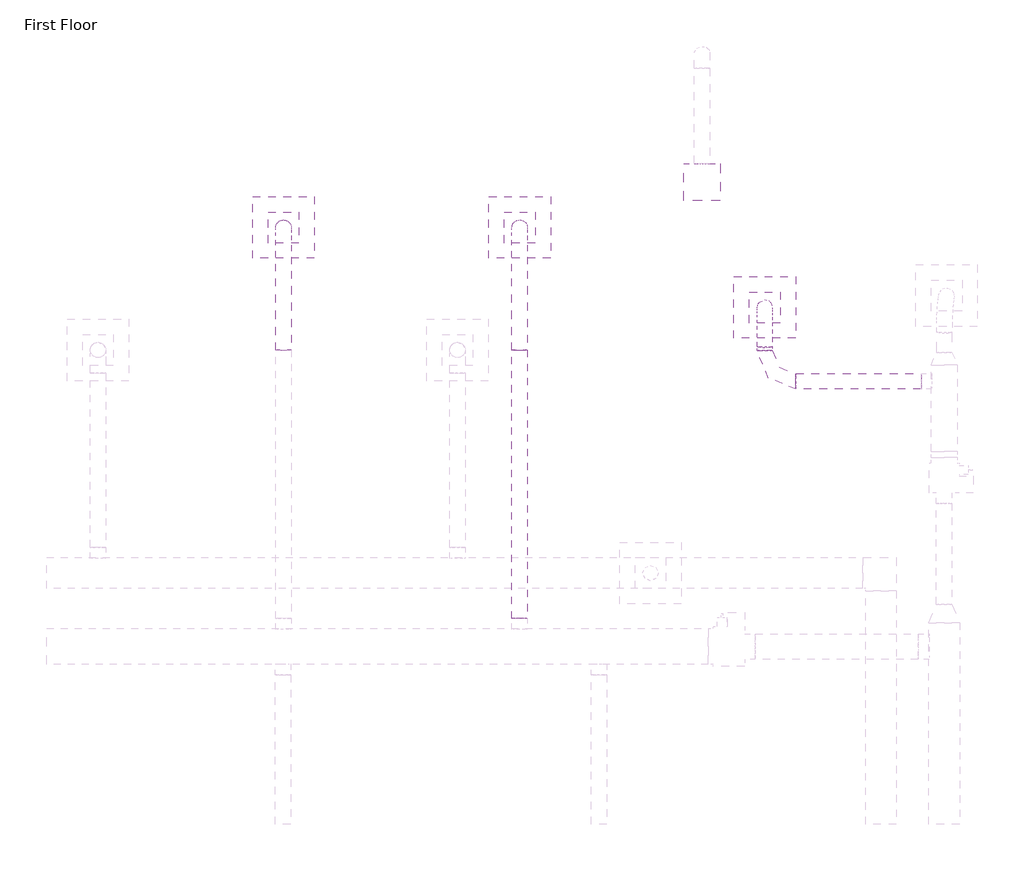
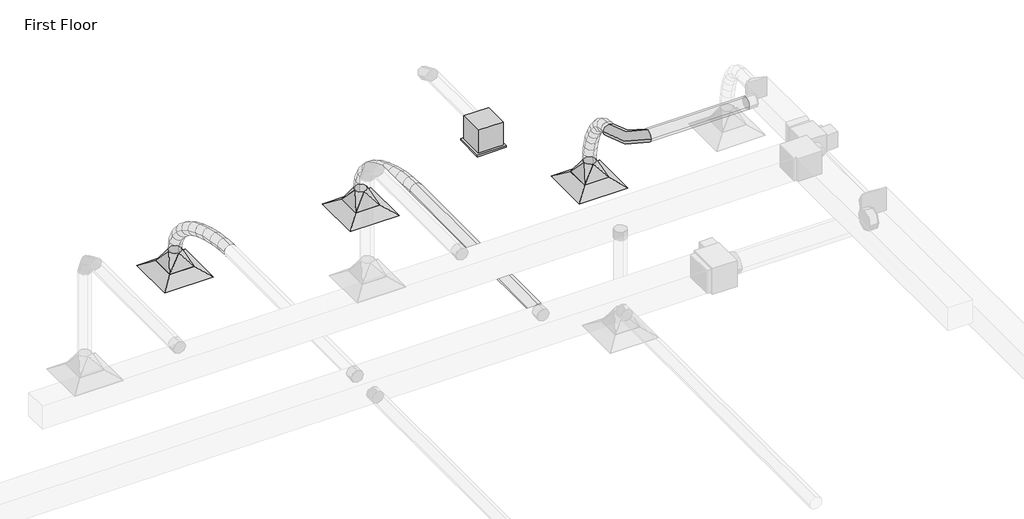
# One storey, part 44 of 61: 6 duct segments, 4 duct fittings, 3 air terminals, 1 proxy.
"""IFC4 building model written with IfcOpenShell, lengths in millimetres."""

from ifc_helpers import new_model, si_unit, point, frame, frame_2d, origin, place, context, project, spatial, circle_curve, ellipse_curve, trimmed, segment, composite_curve, outline, extrude, transform, mapped, element, save
from ifc_brep_helpers import plane_surface, cylinder_surface, advanced_brep
from components import m_exhaust_grill_er_600_x_600_face_300_x_300_connection_ff221211, proxy_47_84_lps_344db5a5, m_rectangular_to_round_transition_angle_45_degree_8f201c83, m_round_elbow_2_d_c40af4c7

model = new_model("IFC4")

# Units and contexts
model_context = context("Model", 3, world=origin())
ifc_project = project(units=[si_unit("LENGTHUNIT", "METRE", prefix="MILLI")], contexts=[model_context])

# Site, building, storey
site = spatial("IfcSite", under=ifc_project)
building = spatial("IfcBuilding", under=site)
storey = spatial("IfcBuildingStorey", under=building, Name="First Floor", Elevation=0.0)

# Air terminals
placement = place(None, origin())
m_exhaust_grill_er_600_x_600_face_300_x_300_connection_shape = m_exhaust_grill_er_600_x_600_face_300_x_300_connection_ff221211(model_context)
element("IfcAirTerminal", 1, ObjectType="M_Supply Diffuser : SD-600 x 600 Face 300 x 300 Connection", at=placement, inside=storey, context=model_context, shape_type="MappedRepresentation", body=[
    mapped(m_exhaust_grill_er_600_x_600_face_300_x_300_connection_shape, transform((-45931.4576084, 55051.7869292, 2680.0), x_axis=(1.0, 0.0, 0.0), y_axis=(0.0, 1.0, 0.0), z_axis=(0.0, 0.0, 1.0))),
])
element("IfcAirTerminal", 2, ObjectType="M_Supply Diffuser : SD-600 x 600 Face 300 x 300 Connection", at=placement, inside=storey, context=model_context, shape_type="MappedRepresentation", body=[
    mapped(m_exhaust_grill_er_600_x_600_face_300_x_300_connection_shape, transform((-43638.1837386, 55051.7869292, 2680.0), x_axis=(1.0, 0.0, 0.0), y_axis=(0.0, 1.0, 0.0), z_axis=(0.0, 0.0, 1.0))),
])
element("IfcAirTerminal", 3, ObjectType="M_Supply Diffuser : SD-600 x 600 Face 300 x 300 Connection", at=placement, inside=storey, context=model_context, shape_type="MappedRepresentation", body=[
    mapped(m_exhaust_grill_er_600_x_600_face_300_x_300_connection_shape, transform((-41259.1077231, 54274.9463028, 2680.0), x_axis=(1.0, 0.0, 0.0), y_axis=(0.0, 1.0, 0.0), z_axis=(0.0, 0.0, 1.0))),
])

# Proxy
proxy_47_84_lps_shape = proxy_47_84_lps_344db5a5(model_context)
element("IfcBuildingElementProxy", 4, Name="M_Exhaust Unit with Cabinet - Round Connection - Ceiling Mounted : 47-84 LPS", ObjectType="M_Exhaust Unit with Cabinet - Round Connection - Ceiling Mounted : 47-84 LPS", at=placement, inside=storey, context=model_context, shape_type="MappedRepresentation", body=[
    mapped(proxy_47_84_lps_shape, transform((-41867.0563016, 55492.1436321, 2680.0), x_axis=(-1.0, 0.0, 0.0), y_axis=(0.0, -1.0, 0.0), z_axis=(0.0, 0.0, 1.0))),
])

# Duct fittings
m_rectangular_to_round_transition_angle_45_degree_shape = m_rectangular_to_round_transition_angle_45_degree_8f201c83(model_context)
element("IfcDuctFitting", 5, ObjectType="M_Rectangular to Round Transition - Angle : 45 Degree", at=placement, inside=storey, context=model_context, shape_type="MappedRepresentation", body=[
    mapped(m_rectangular_to_round_transition_angle_45_degree_shape, transform((-45931.4576084, 55051.7869292, 2781.6), x_axis=(0.0, 0.0, 1.0), y_axis=(1.0, 0.0, 0.0), z_axis=(0.0, 1.0, 0.0))),
])
element("IfcDuctFitting", 6, ObjectType="M_Rectangular to Round Transition - Angle : 45 Degree", at=placement, inside=storey, context=model_context, shape_type="MappedRepresentation", body=[
    mapped(m_rectangular_to_round_transition_angle_45_degree_shape, transform((-43638.1837386, 55051.7869292, 2781.6), x_axis=(0.0, 0.0, 1.0), y_axis=(1.0, 0.0, 0.0), z_axis=(0.0, 1.0, 0.0))),
])
element("IfcDuctFitting", 7, ObjectType="M_Rectangular to Round Transition - Angle : 45 Degree", at=placement, inside=storey, context=model_context, shape_type="MappedRepresentation", body=[
    mapped(m_rectangular_to_round_transition_angle_45_degree_shape, transform((-41259.1077231, 54274.9463028, 2781.6), x_axis=(0.0, 0.0, 1.0), y_axis=(1.0, 0.0, 0.0), z_axis=(0.0, 1.0, 0.0))),
])
m_round_elbow_2_d_shape = m_round_elbow_2_d_c40af4c7(model_context)
element("IfcDuctFitting", 8, ObjectType="M_Round Elbow : 2 D", at=placement, inside=storey, context=model_context, shape_type="MappedRepresentation", body=[
    mapped(m_round_elbow_2_d_shape, transform((-41259.1077231, 53555.7638627, 3619.1), x_axis=(0.0, -1.0, 0.0), y_axis=(1.0, 0.0, 0.0), z_axis=(0.0, 0.0, 1.0))),
])

# Duct segments
element("IfcDuctSegment", 9, ObjectType="Flex - Round", at=placement, inside=storey, context=model_context, shape_type="AdvancedBrep", body=[
    advanced_brep(
    [(-46006.4576084, 53861.7582569, 3669.1), (-45931.4576084, 53857.9851706, 3594.194968), (-45856.4576084, 53861.7582569, 3669.1), (-45931.4576084, 53865.5313432, 3744.005032), (-46006.4576084, 54007.1760719, 3661.7750721), (-45931.4576084, 54000.0547403, 3587.0386965), (-45856.4576084, 54007.1760719, 3661.7750721), (-45931.4576084, 54014.2974035, 3736.5114476), (-46006.4576084, 55051.7869292, 2962.6660172), (-45931.4576084, 55125.8654381, 2974.3867045), (-45856.4576084, 55051.7869292, 2962.6660172), (-45931.4576084, 54977.7084202, 2950.9453299), (-46006.4576084, 54162.6621963, 3639.9161052), (-45931.4576084, 54149.1177474, 3566.0827215), (-45856.4576084, 54162.6621963, 3639.9161052), (-45931.4576084, 54176.2066453, 3713.7494888), (-46006.4576084, 54322.2397685, 3603.6968247), (-45931.4576084, 54302.4851842, 3531.2729539), (-45856.4576084, 54322.2397685, 3603.6968247), (-45931.4576084, 54341.9943528, 3676.1206955), (-46006.4576084, 54479.9319267, 3553.2909562), (-45931.4576084, 54453.6409268, 3482.9564328), (-45856.4576084, 54479.9319267, 3553.2909562), (-45931.4576084, 54506.2229266, 3623.6254796), (-46006.4576084, 54629.7618093, 3488.8722249), (-45931.4576084, 54596.1325707, 3421.6927465), (-45856.4576084, 54629.7618093, 3488.8722249), (-45931.4576084, 54663.3910479, 3556.0517032), (-46006.4576084, 54765.7525547, 3410.6143563), (-45931.4576084, 54723.5515223, 3348.3676423), (-45856.4576084, 54765.7525547, 3410.6143563), (-45931.4576084, 54807.953587, 3472.8610703), (-46006.4576084, 54881.927301, 3318.6910758), (-45931.4576084, 54829.7068447, 3264.3722322), (-45856.4576084, 54881.927301, 3318.6910758), (-45931.4576084, 54934.1477573, 3373.0099195), (-46006.4576084, 54972.3091866, 3213.2761089), (-45931.4576084, 54909.2323791, 3171.6193368), (-45856.4576084, 54972.3091866, 3213.2761089), (-45931.4576084, 55035.3859942, 3254.9328809), (-46006.4576084, 55030.9213499, 3094.5431809), (-45931.4576084, 54958.6240414, 3071.5647345), (-45856.4576084, 55030.9213499, 3094.5431809), (-45931.4576084, 55103.2186584, 3117.5216272)],
    [
        (0, 1, circle_curve(frame((-45931.4576084, 53861.7582569, 3669.1), z_axis=(0.0, -0.9987337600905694, 0.05030781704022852), x_axis=(-1.0, 0.0, 0.0)), 75.0)),
        (1, 2, circle_curve(frame((-45931.4576084, 53861.7582569, 3669.1), z_axis=(0.0, -0.9987337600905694, 0.05030781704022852), x_axis=(-1.0, 0.0, 0.0)), 75.0)),
        (2, 3, circle_curve(frame((-45931.4576084, 53861.7582569, 3669.1), z_axis=(0.0, -0.9987337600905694, 0.05030781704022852), x_axis=(-1.0, 0.0, 0.0)), 75.0)),
        (3, 0, circle_curve(frame((-45931.4576084, 53861.7582569, 3669.1), z_axis=(0.0, -0.9987337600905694, 0.05030781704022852), x_axis=(-1.0, 0.0, 0.0)), 75.0)),
        (0, 4),
        (4, 5, ellipse_curve(frame((-45931.4576084, 54007.1760719, 3661.7750721), z_axis=(0.0, -0.9954909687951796, 0.09485637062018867), x_axis=(0.0, -0.0948563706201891, -0.9954909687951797)), 75.0748906, 75.0)),
        (5, 1),
        (5, 6, ellipse_curve(frame((-45931.4576084, 54007.1760719, 3661.7750721), z_axis=(0.0, -0.9954909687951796, 0.09485637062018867), x_axis=(0.0, -0.0948563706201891, -0.9954909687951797)), 75.0748906, 75.0)),
        (6, 2),
        (6, 7, ellipse_curve(frame((-45931.4576084, 54007.1760719, 3661.7750721), z_axis=(0.0, -0.9954909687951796, 0.09485637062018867), x_axis=(0.0, -0.0948563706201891, -0.9954909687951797)), 75.0748906, 75.0)),
        (7, 3),
        (7, 4, ellipse_curve(frame((-45931.4576084, 54007.1760719, 3661.7750721), z_axis=(0.0, -0.9954909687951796, 0.09485637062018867), x_axis=(0.0, -0.0948563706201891, -0.9954909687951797)), 75.0748906, 75.0)),
        (8, 9, circle_curve(frame((-45931.4576084, 55051.7869292, 2962.6660172), z_axis=(0.0, 0.15627583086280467, -0.9877134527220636), x_axis=(-1.0, 0.0, 0.0)), 75.0)),
        (9, 10, circle_curve(frame((-45931.4576084, 55051.7869292, 2962.6660172), z_axis=(0.0, 0.15627583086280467, -0.9877134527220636), x_axis=(-1.0, 0.0, 0.0)), 75.0)),
        (10, 11, circle_curve(frame((-45931.4576084, 55051.7869292, 2962.6660172), z_axis=(0.0, 0.15627583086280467, -0.9877134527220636), x_axis=(-1.0, 0.0, 0.0)), 75.0)),
        (11, 8, circle_curve(frame((-45931.4576084, 55051.7869292, 2962.6660172), z_axis=(0.0, 0.15627583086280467, -0.9877134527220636), x_axis=(-1.0, 0.0, 0.0)), 75.0)),
        (4, 12),
        (12, 13, ellipse_curve(frame((-45931.4576084, 54162.6621963, 3639.9161052), z_axis=(0.0, -0.9835868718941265, 0.18043521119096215), x_axis=(1.29484384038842e-12, -0.18043521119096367, -0.9835868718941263)), 75.0654424, 75.0)),
        (13, 5),
        (13, 14, ellipse_curve(frame((-45931.4576084, 54162.6621963, 3639.9161052), z_axis=(0.0, -0.9835868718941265, 0.18043521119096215), x_axis=(1.29484384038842e-12, -0.18043521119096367, -0.9835868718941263)), 75.0654424, 75.0)),
        (14, 6),
        (14, 15, ellipse_curve(frame((-45931.4576084, 54162.6621963, 3639.9161052), z_axis=(0.0, -0.9835868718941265, 0.18043521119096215), x_axis=(1.29484384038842e-12, -0.18043521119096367, -0.9835868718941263)), 75.0654424, 75.0)),
        (15, 7),
        (15, 12, ellipse_curve(frame((-45931.4576084, 54162.6621963, 3639.9161052), z_axis=(0.0, -0.9835868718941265, 0.18043521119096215), x_axis=(1.29484384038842e-12, -0.18043521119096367, -0.9835868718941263)), 75.0654424, 75.0)),
        (12, 16),
        (16, 17, ellipse_curve(frame((-45931.4576084, 54322.2397685, 3603.6968247), z_axis=(0.0, -0.9647549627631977, 0.26314988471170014), x_axis=(-1.2216592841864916e-12, -0.26314988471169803, -0.9647549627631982)), 75.0697054, 75.0)),
        (17, 13),
        (17, 18, ellipse_curve(frame((-45931.4576084, 54322.2397685, 3603.6968247), z_axis=(0.0, -0.9647549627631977, 0.26314988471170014), x_axis=(-1.2216592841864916e-12, -0.26314988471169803, -0.9647549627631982)), 75.0697054, 75.0)),
        (18, 14),
        (18, 19, ellipse_curve(frame((-45931.4576084, 54322.2397685, 3603.6968247), z_axis=(0.0, -0.9647549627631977, 0.26314988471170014), x_axis=(-1.2216592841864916e-12, -0.26314988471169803, -0.9647549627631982)), 75.0697054, 75.0)),
        (19, 15),
        (19, 16, ellipse_curve(frame((-45931.4576084, 54322.2397685, 3603.6968247), z_axis=(0.0, -0.9647549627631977, 0.26314988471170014), x_axis=(-1.2216592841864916e-12, -0.26314988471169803, -0.9647549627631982)), 75.0697054, 75.0)),
        (16, 20),
        (20, 21, ellipse_curve(frame((-45931.4576084, 54479.9319267, 3553.2909562), z_axis=(0.0, -0.9366984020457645, 0.3501372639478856), x_axis=(0.0, -0.35013726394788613, -0.9366984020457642)), 75.0876944, 75.0)),
        (21, 17),
        (21, 22, ellipse_curve(frame((-45931.4576084, 54479.9319267, 3553.2909562), z_axis=(0.0, -0.9366984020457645, 0.3501372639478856), x_axis=(0.0, -0.35013726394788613, -0.9366984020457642)), 75.0876944, 75.0)),
        (22, 18),
        (22, 23, ellipse_curve(frame((-45931.4576084, 54479.9319267, 3553.2909562), z_axis=(0.0, -0.9366984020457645, 0.3501372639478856), x_axis=(0.0, -0.35013726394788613, -0.9366984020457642)), 75.0876944, 75.0)),
        (23, 19),
        (23, 20, ellipse_curve(frame((-45931.4576084, 54479.9319267, 3553.2909562), z_axis=(0.0, -0.9366984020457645, 0.3501372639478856), x_axis=(0.0, -0.35013726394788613, -0.9366984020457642)), 75.0876944, 75.0)),
        (20, 24),
        (24, 25, ellipse_curve(frame((-45931.4576084, 54629.7618093, 3488.8722249), z_axis=(0.0, -0.8942167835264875, 0.44763416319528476), x_axis=(0.0, -0.44763416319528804, -0.894216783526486)), 75.1266131, 75.0)),
        (25, 21),
        (25, 26, ellipse_curve(frame((-45931.4576084, 54629.7618093, 3488.8722249), z_axis=(0.0, -0.8942167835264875, 0.44763416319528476), x_axis=(0.0, -0.44763416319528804, -0.894216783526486)), 75.1266131, 75.0)),
        (26, 22),
        (26, 27, ellipse_curve(frame((-45931.4576084, 54629.7618093, 3488.8722249), z_axis=(0.0, -0.8942167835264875, 0.44763416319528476), x_axis=(0.0, -0.44763416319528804, -0.894216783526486)), 75.1266131, 75.0)),
        (27, 23),
        (27, 24, ellipse_curve(frame((-45931.4576084, 54629.7618093, 3488.8722249), z_axis=(0.0, -0.8942167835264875, 0.44763416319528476), x_axis=(0.0, -0.44763416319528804, -0.894216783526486)), 75.1266131, 75.0)),
        (24, 28),
        (28, 29, ellipse_curve(frame((-45931.4576084, 54765.7525547, 3410.6143563), z_axis=(0.0, -0.8277092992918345, 0.5611571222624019), x_axis=(0.0, -0.5611571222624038, -0.8277092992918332)), 75.2035939, 75.0)),
        (29, 25),
        (29, 30, ellipse_curve(frame((-45931.4576084, 54765.7525547, 3410.6143563), z_axis=(0.0, -0.8277092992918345, 0.5611571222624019), x_axis=(0.0, -0.5611571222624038, -0.8277092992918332)), 75.2035939, 75.0)),
        (30, 26),
        (30, 31, ellipse_curve(frame((-45931.4576084, 54765.7525547, 3410.6143563), z_axis=(0.0, -0.8277092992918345, 0.5611571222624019), x_axis=(0.0, -0.5611571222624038, -0.8277092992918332)), 75.2035939, 75.0)),
        (31, 27),
        (31, 28, ellipse_curve(frame((-45931.4576084, 54765.7525547, 3410.6143563), z_axis=(0.0, -0.8277092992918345, 0.5611571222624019), x_axis=(0.0, -0.5611571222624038, -0.8277092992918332)), 75.2035939, 75.0)),
        (28, 32),
        (32, 33, ellipse_curve(frame((-45931.4576084, 54881.927301, 3318.6910758), z_axis=(0.0, -0.7208940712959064, 0.6930452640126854), x_axis=(0.0, -0.693045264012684, -0.7208940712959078)), 75.3492723, 75.0)),
        (33, 29),
        (33, 34, ellipse_curve(frame((-45931.4576084, 54881.927301, 3318.6910758), z_axis=(0.0, -0.7208940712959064, 0.6930452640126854), x_axis=(0.0, -0.693045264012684, -0.7208940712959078)), 75.3492723, 75.0)),
        (34, 30),
        (34, 35, ellipse_curve(frame((-45931.4576084, 54881.927301, 3318.6910758), z_axis=(0.0, -0.7208940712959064, 0.6930452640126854), x_axis=(0.0, -0.693045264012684, -0.7208940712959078)), 75.3492723, 75.0)),
        (35, 31),
        (35, 32, ellipse_curve(frame((-45931.4576084, 54881.927301, 3318.6910758), z_axis=(0.0, -0.7208940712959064, 0.6930452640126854), x_axis=(0.0, -0.693045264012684, -0.7208940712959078)), 75.3492723, 75.0)),
        (32, 36),
        (36, 37, ellipse_curve(frame((-45931.4576084, 54972.3091866, 3213.2761089), z_axis=(0.0, -0.5510825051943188, 0.8344507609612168), x_axis=(0.0, -0.8344507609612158, -0.55108250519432)), 75.5908084, 75.0)),
        (37, 33),
        (37, 38, ellipse_curve(frame((-45931.4576084, 54972.3091866, 3213.2761089), z_axis=(0.0, -0.5510825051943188, 0.8344507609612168), x_axis=(0.0, -0.8344507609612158, -0.55108250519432)), 75.5908084, 75.0)),
        (38, 34),
        (38, 39, ellipse_curve(frame((-45931.4576084, 54972.3091866, 3213.2761089), z_axis=(0.0, -0.5510825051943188, 0.8344507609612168), x_axis=(0.0, -0.8344507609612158, -0.55108250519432)), 75.5908084, 75.0)),
        (39, 35),
        (39, 36, ellipse_curve(frame((-45931.4576084, 54972.3091866, 3213.2761089), z_axis=(0.0, -0.5510825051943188, 0.8344507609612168), x_axis=(0.0, -0.8344507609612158, -0.55108250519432)), 75.5908084, 75.0)),
        (36, 40),
        (40, 41, ellipse_curve(frame((-45931.4576084, 55030.9213499, 3094.5431809), z_axis=(0.0, -0.30290148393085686, 0.9530218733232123), x_axis=(0.0, -0.953021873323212, -0.3029014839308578)), 75.8611219, 75.0)),
        (41, 37),
        (41, 42, ellipse_curve(frame((-45931.4576084, 55030.9213499, 3094.5431809), z_axis=(0.0, -0.30290148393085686, 0.9530218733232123), x_axis=(0.0, -0.953021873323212, -0.3029014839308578)), 75.8611219, 75.0)),
        (42, 38),
        (42, 43, ellipse_curve(frame((-45931.4576084, 55030.9213499, 3094.5431809), z_axis=(0.0, -0.30290148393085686, 0.9530218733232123), x_axis=(0.0, -0.953021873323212, -0.3029014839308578)), 75.8611219, 75.0)),
        (43, 39),
        (43, 40, ellipse_curve(frame((-45931.4576084, 55030.9213499, 3094.5431809), z_axis=(0.0, -0.30290148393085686, 0.9530218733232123), x_axis=(0.0, -0.953021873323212, -0.3029014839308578)), 75.8611219, 75.0)),
        (40, 8),
        (11, 41),
        (10, 42),
        (9, 43),
    ],
    [
        plane_surface(frame((-45931.4576084, 53865.5313432, 3744.005032), z_axis=(0.0, -0.9987337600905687, 0.050307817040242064), x_axis=(1.0, 0.0, 0.0))),
        cylinder_surface(frame((-45931.4576084, 53861.7582569, 3669.1), z_axis=(0.0, -0.9987337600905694, 0.05030781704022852), x_axis=(-1.0, 0.0, 0.0)), 75.0),
        plane_surface(frame((-45931.4576084, 55125.8654381, 2974.3867045), z_axis=(0.0, 0.15627583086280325, -0.9877134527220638), x_axis=(1.0, 0.0, 0.0))),
        cylinder_surface(frame((-45931.4576084, 54007.1760719, 3661.7750721), z_axis=(0.0, -0.9902620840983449, 0.1392156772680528), x_axis=(-1.0, 0.0, 0.0)), 75.0),
        cylinder_surface(frame((-45931.4576084, 54162.6621963, 3639.9161052), z_axis=(0.0, -0.9751966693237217, 0.2213401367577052), x_axis=(-1.0, 0.0, 0.0)), 75.0),
        cylinder_surface(frame((-45931.4576084, 54322.2397685, 3603.6968247), z_axis=(0.0, -0.952521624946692, 0.3044709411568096), x_axis=(-1.0, 0.0, 0.0)), 75.0),
        cylinder_surface(frame((-45931.4576084, 54479.9319267, 3553.2909562), z_axis=(0.0, -0.918687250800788, 0.3949857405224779), x_axis=(-1.0, 0.0, 0.0)), 75.0),
        cylinder_surface(frame((-45931.4576084, 54629.7618093, 3488.8722249), z_axis=(0.0, -0.8667322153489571, 0.4987737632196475), x_axis=(-1.0, 0.0, 0.0)), 75.0),
        cylinder_surface(frame((-45931.4576084, 54765.7525547, 3410.6143563), z_axis=(0.0, -0.7842047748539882, 0.6205021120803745), x_axis=(-1.0, 0.0, 0.0)), 75.0),
        cylinder_surface(frame((-45931.4576084, 54881.927301, 3318.6910758), z_axis=(0.0, -0.6509001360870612, 0.7591633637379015), x_axis=(-1.0, 0.0, 0.0)), 75.0),
        cylinder_surface(frame((-45931.4576084, 54972.3091866, 3213.2761089), z_axis=(0.0, -0.4426504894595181, 0.8966942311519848), x_axis=(-1.0, 0.0, 0.0)), 75.0),
        cylinder_surface(frame((-45931.4576084, 55030.9213499, 3094.5431809), z_axis=(0.0, -0.15627583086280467, 0.9877134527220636), x_axis=(-1.0, 0.0, 0.0)), 75.0),
    ],
    [
        (0, [[1, 2, 3, 4]]),
        (1, [[-1, 5, 6, 7]]),
        (1, [[-2, -7, 8, 9]]),
        (1, [[-3, -9, 10, 11]]),
        (1, [[-4, -11, 12, -5]]),
        (2, [[13, 14, 15, 16]]),
        (3, [[-6, 17, 18, 19]]),
        (3, [[-8, -19, 20, 21]]),
        (3, [[-10, -21, 22, 23]]),
        (3, [[-12, -23, 24, -17]]),
        (4, [[-18, 25, 26, 27]]),
        (4, [[-20, -27, 28, 29]]),
        (4, [[-22, -29, 30, 31]]),
        (4, [[-24, -31, 32, -25]]),
        (5, [[-26, 33, 34, 35]]),
        (5, [[-28, -35, 36, 37]]),
        (5, [[-30, -37, 38, 39]]),
        (5, [[-32, -39, 40, -33]]),
        (6, [[-34, 41, 42, 43]]),
        (6, [[-36, -43, 44, 45]]),
        (6, [[-38, -45, 46, 47]]),
        (6, [[-40, -47, 48, -41]]),
        (7, [[-42, 49, 50, 51]]),
        (7, [[-44, -51, 52, 53]]),
        (7, [[-46, -53, 54, 55]]),
        (7, [[-48, -55, 56, -49]]),
        (8, [[-50, 57, 58, 59]]),
        (8, [[-52, -59, 60, 61]]),
        (8, [[-54, -61, 62, 63]]),
        (8, [[-56, -63, 64, -57]]),
        (9, [[-58, 65, 66, 67]]),
        (9, [[-60, -67, 68, 69]]),
        (9, [[-62, -69, 70, 71]]),
        (9, [[-64, -71, 72, -65]]),
        (10, [[-66, 73, 74, 75]]),
        (10, [[-68, -75, 76, 77]]),
        (10, [[-70, -77, 78, 79]]),
        (10, [[-72, -79, 80, -73]]),
        (11, [[-74, 81, -16, 82]]),
        (11, [[-76, -82, -15, 83]]),
        (11, [[-78, -83, -14, 84]]),
        (11, [[-80, -84, -13, -81]]),
    ],
),
])
element("IfcDuctSegment", 10, ObjectType="Flex - Round", at=placement, inside=storey, context=model_context, shape_type="AdvancedBrep", body=[
    advanced_brep(
    [(-43713.1837386, 53861.7582569, 3669.1), (-43638.1837386, 53857.9851706, 3594.194968), (-43563.1837386, 53861.7582569, 3669.1), (-43638.1837386, 53865.5313432, 3744.005032), (-43713.1837386, 54007.1760719, 3661.7750721), (-43638.1837386, 54000.0547403, 3587.0386965), (-43563.1837386, 54007.1760719, 3661.7750721), (-43638.1837386, 54014.2974035, 3736.5114476), (-43713.1837386, 55051.7869292, 2962.6660172), (-43638.1837386, 55125.8654381, 2974.3867045), (-43563.1837386, 55051.7869292, 2962.6660172), (-43638.1837386, 54977.7084202, 2950.9453299), (-43713.1837386, 54162.6621963, 3639.9161052), (-43638.1837386, 54149.1177474, 3566.0827215), (-43563.1837386, 54162.6621963, 3639.9161052), (-43638.1837386, 54176.2066453, 3713.7494888), (-43713.1837386, 54322.2397685, 3603.6968247), (-43638.1837386, 54302.4851842, 3531.2729539), (-43563.1837386, 54322.2397685, 3603.6968247), (-43638.1837386, 54341.9943528, 3676.1206955), (-43713.1837386, 54479.9319267, 3553.2909562), (-43638.1837386, 54453.6409268, 3482.9564328), (-43563.1837386, 54479.9319267, 3553.2909562), (-43638.1837386, 54506.2229266, 3623.6254796), (-43713.1837386, 54629.7618093, 3488.8722249), (-43638.1837386, 54596.1325707, 3421.6927465), (-43563.1837386, 54629.7618093, 3488.8722249), (-43638.1837386, 54663.3910479, 3556.0517032), (-43713.1837386, 54765.7525547, 3410.6143563), (-43638.1837386, 54723.5515223, 3348.3676423), (-43563.1837386, 54765.7525547, 3410.6143563), (-43638.1837386, 54807.953587, 3472.8610703), (-43713.1837386, 54881.927301, 3318.6910758), (-43638.1837386, 54829.7068447, 3264.3722322), (-43563.1837386, 54881.927301, 3318.6910758), (-43638.1837386, 54934.1477573, 3373.0099195), (-43713.1837386, 54972.3091866, 3213.2761089), (-43638.1837386, 54909.2323791, 3171.6193368), (-43563.1837386, 54972.3091866, 3213.2761089), (-43638.1837386, 55035.3859942, 3254.9328809), (-43713.1837386, 55030.9213499, 3094.5431809), (-43638.1837386, 54958.6240414, 3071.5647345), (-43563.1837386, 55030.9213499, 3094.5431809), (-43638.1837386, 55103.2186584, 3117.5216272)],
    [
        (0, 1, circle_curve(frame((-43638.1837386, 53861.7582569, 3669.1), z_axis=(0.0, -0.9987337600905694, 0.05030781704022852), x_axis=(-1.0, 0.0, 0.0)), 75.0)),
        (1, 2, circle_curve(frame((-43638.1837386, 53861.7582569, 3669.1), z_axis=(0.0, -0.9987337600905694, 0.05030781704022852), x_axis=(-1.0, 0.0, 0.0)), 75.0)),
        (2, 3, circle_curve(frame((-43638.1837386, 53861.7582569, 3669.1), z_axis=(0.0, -0.9987337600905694, 0.05030781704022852), x_axis=(-1.0, 0.0, 0.0)), 75.0)),
        (3, 0, circle_curve(frame((-43638.1837386, 53861.7582569, 3669.1), z_axis=(0.0, -0.9987337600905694, 0.05030781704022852), x_axis=(-1.0, 0.0, 0.0)), 75.0)),
        (0, 4),
        (4, 5, ellipse_curve(frame((-43638.1837386, 54007.1760719, 3661.7750721), z_axis=(0.0, -0.9954909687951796, 0.09485637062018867), x_axis=(0.0, -0.0948563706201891, -0.9954909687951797)), 75.0748906, 75.0)),
        (5, 1),
        (5, 6, ellipse_curve(frame((-43638.1837386, 54007.1760719, 3661.7750721), z_axis=(0.0, -0.9954909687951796, 0.09485637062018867), x_axis=(0.0, -0.0948563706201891, -0.9954909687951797)), 75.0748906, 75.0)),
        (6, 2),
        (6, 7, ellipse_curve(frame((-43638.1837386, 54007.1760719, 3661.7750721), z_axis=(0.0, -0.9954909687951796, 0.09485637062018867), x_axis=(0.0, -0.0948563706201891, -0.9954909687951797)), 75.0748906, 75.0)),
        (7, 3),
        (7, 4, ellipse_curve(frame((-43638.1837386, 54007.1760719, 3661.7750721), z_axis=(0.0, -0.9954909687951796, 0.09485637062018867), x_axis=(0.0, -0.0948563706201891, -0.9954909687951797)), 75.0748906, 75.0)),
        (8, 9, circle_curve(frame((-43638.1837386, 55051.7869292, 2962.6660172), z_axis=(0.0, 0.15627583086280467, -0.9877134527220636), x_axis=(-1.0, 0.0, 0.0)), 75.0)),
        (9, 10, circle_curve(frame((-43638.1837386, 55051.7869292, 2962.6660172), z_axis=(0.0, 0.15627583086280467, -0.9877134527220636), x_axis=(-1.0, 0.0, 0.0)), 75.0)),
        (10, 11, circle_curve(frame((-43638.1837386, 55051.7869292, 2962.6660172), z_axis=(0.0, 0.15627583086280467, -0.9877134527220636), x_axis=(-1.0, 0.0, 0.0)), 75.0)),
        (11, 8, circle_curve(frame((-43638.1837386, 55051.7869292, 2962.6660172), z_axis=(0.0, 0.15627583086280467, -0.9877134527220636), x_axis=(-1.0, 0.0, 0.0)), 75.0)),
        (4, 12),
        (12, 13, ellipse_curve(frame((-43638.1837386, 54162.6621963, 3639.9161052), z_axis=(0.0, -0.9835868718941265, 0.18043521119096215), x_axis=(0.0, -0.18043521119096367, -0.9835868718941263)), 75.0654424, 75.0)),
        (13, 5),
        (13, 14, ellipse_curve(frame((-43638.1837386, 54162.6621963, 3639.9161052), z_axis=(0.0, -0.9835868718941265, 0.18043521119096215), x_axis=(0.0, -0.18043521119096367, -0.9835868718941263)), 75.0654424, 75.0)),
        (14, 6),
        (14, 15, ellipse_curve(frame((-43638.1837386, 54162.6621963, 3639.9161052), z_axis=(0.0, -0.9835868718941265, 0.18043521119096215), x_axis=(0.0, -0.18043521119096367, -0.9835868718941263)), 75.0654424, 75.0)),
        (15, 7),
        (15, 12, ellipse_curve(frame((-43638.1837386, 54162.6621963, 3639.9161052), z_axis=(0.0, -0.9835868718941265, 0.18043521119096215), x_axis=(0.0, -0.18043521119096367, -0.9835868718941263)), 75.0654424, 75.0)),
        (12, 16),
        (16, 17, ellipse_curve(frame((-43638.1837386, 54322.2397685, 3603.6968247), z_axis=(0.0, -0.9647549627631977, 0.26314988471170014), x_axis=(0.0, -0.26314988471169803, -0.9647549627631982)), 75.0697054, 75.0)),
        (17, 13),
        (17, 18, ellipse_curve(frame((-43638.1837386, 54322.2397685, 3603.6968247), z_axis=(0.0, -0.9647549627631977, 0.26314988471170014), x_axis=(0.0, -0.26314988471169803, -0.9647549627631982)), 75.0697054, 75.0)),
        (18, 14),
        (18, 19, ellipse_curve(frame((-43638.1837386, 54322.2397685, 3603.6968247), z_axis=(0.0, -0.9647549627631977, 0.26314988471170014), x_axis=(0.0, -0.26314988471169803, -0.9647549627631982)), 75.0697054, 75.0)),
        (19, 15),
        (19, 16, ellipse_curve(frame((-43638.1837386, 54322.2397685, 3603.6968247), z_axis=(0.0, -0.9647549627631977, 0.26314988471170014), x_axis=(0.0, -0.26314988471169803, -0.9647549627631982)), 75.0697054, 75.0)),
        (16, 20),
        (20, 21, ellipse_curve(frame((-43638.1837386, 54479.9319267, 3553.2909562), z_axis=(0.0, -0.9366984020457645, 0.3501372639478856), x_axis=(0.0, -0.35013726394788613, -0.9366984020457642)), 75.0876944, 75.0)),
        (21, 17),
        (21, 22, ellipse_curve(frame((-43638.1837386, 54479.9319267, 3553.2909562), z_axis=(0.0, -0.9366984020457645, 0.3501372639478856), x_axis=(0.0, -0.35013726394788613, -0.9366984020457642)), 75.0876944, 75.0)),
        (22, 18),
        (22, 23, ellipse_curve(frame((-43638.1837386, 54479.9319267, 3553.2909562), z_axis=(0.0, -0.9366984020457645, 0.3501372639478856), x_axis=(0.0, -0.35013726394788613, -0.9366984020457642)), 75.0876944, 75.0)),
        (23, 19),
        (23, 20, ellipse_curve(frame((-43638.1837386, 54479.9319267, 3553.2909562), z_axis=(0.0, -0.9366984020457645, 0.3501372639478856), x_axis=(0.0, -0.35013726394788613, -0.9366984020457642)), 75.0876944, 75.0)),
        (20, 24),
        (24, 25, ellipse_curve(frame((-43638.1837386, 54629.7618093, 3488.8722249), z_axis=(0.0, -0.8942167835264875, 0.44763416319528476), x_axis=(0.0, -0.44763416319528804, -0.894216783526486)), 75.1266131, 75.0)),
        (25, 21),
        (25, 26, ellipse_curve(frame((-43638.1837386, 54629.7618093, 3488.8722249), z_axis=(0.0, -0.8942167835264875, 0.44763416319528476), x_axis=(0.0, -0.44763416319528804, -0.894216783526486)), 75.1266131, 75.0)),
        (26, 22),
        (26, 27, ellipse_curve(frame((-43638.1837386, 54629.7618093, 3488.8722249), z_axis=(0.0, -0.8942167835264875, 0.44763416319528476), x_axis=(0.0, -0.44763416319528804, -0.894216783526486)), 75.1266131, 75.0)),
        (27, 23),
        (27, 24, ellipse_curve(frame((-43638.1837386, 54629.7618093, 3488.8722249), z_axis=(0.0, -0.8942167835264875, 0.44763416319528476), x_axis=(0.0, -0.44763416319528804, -0.894216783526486)), 75.1266131, 75.0)),
        (24, 28),
        (28, 29, ellipse_curve(frame((-43638.1837386, 54765.7525547, 3410.6143563), z_axis=(0.0, -0.8277092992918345, 0.5611571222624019), x_axis=(0.0, -0.5611571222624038, -0.8277092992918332)), 75.2035939, 75.0)),
        (29, 25),
        (29, 30, ellipse_curve(frame((-43638.1837386, 54765.7525547, 3410.6143563), z_axis=(0.0, -0.8277092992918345, 0.5611571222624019), x_axis=(0.0, -0.5611571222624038, -0.8277092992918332)), 75.2035939, 75.0)),
        (30, 26),
        (30, 31, ellipse_curve(frame((-43638.1837386, 54765.7525547, 3410.6143563), z_axis=(0.0, -0.8277092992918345, 0.5611571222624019), x_axis=(0.0, -0.5611571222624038, -0.8277092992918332)), 75.2035939, 75.0)),
        (31, 27),
        (31, 28, ellipse_curve(frame((-43638.1837386, 54765.7525547, 3410.6143563), z_axis=(0.0, -0.8277092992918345, 0.5611571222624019), x_axis=(0.0, -0.5611571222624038, -0.8277092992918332)), 75.2035939, 75.0)),
        (28, 32),
        (32, 33, ellipse_curve(frame((-43638.1837386, 54881.927301, 3318.6910758), z_axis=(0.0, -0.7208940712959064, 0.6930452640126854), x_axis=(0.0, -0.693045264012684, -0.7208940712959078)), 75.3492723, 75.0)),
        (33, 29),
        (33, 34, ellipse_curve(frame((-43638.1837386, 54881.927301, 3318.6910758), z_axis=(0.0, -0.7208940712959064, 0.6930452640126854), x_axis=(0.0, -0.693045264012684, -0.7208940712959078)), 75.3492723, 75.0)),
        (34, 30),
        (34, 35, ellipse_curve(frame((-43638.1837386, 54881.927301, 3318.6910758), z_axis=(0.0, -0.7208940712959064, 0.6930452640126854), x_axis=(0.0, -0.693045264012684, -0.7208940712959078)), 75.3492723, 75.0)),
        (35, 31),
        (35, 32, ellipse_curve(frame((-43638.1837386, 54881.927301, 3318.6910758), z_axis=(0.0, -0.7208940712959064, 0.6930452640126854), x_axis=(0.0, -0.693045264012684, -0.7208940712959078)), 75.3492723, 75.0)),
        (32, 36),
        (36, 37, ellipse_curve(frame((-43638.1837386, 54972.3091866, 3213.2761089), z_axis=(0.0, -0.5510825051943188, 0.8344507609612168), x_axis=(0.0, -0.8344507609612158, -0.55108250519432)), 75.5908084, 75.0)),
        (37, 33),
        (37, 38, ellipse_curve(frame((-43638.1837386, 54972.3091866, 3213.2761089), z_axis=(0.0, -0.5510825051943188, 0.8344507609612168), x_axis=(0.0, -0.8344507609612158, -0.55108250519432)), 75.5908084, 75.0)),
        (38, 34),
        (38, 39, ellipse_curve(frame((-43638.1837386, 54972.3091866, 3213.2761089), z_axis=(0.0, -0.5510825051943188, 0.8344507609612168), x_axis=(0.0, -0.8344507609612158, -0.55108250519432)), 75.5908084, 75.0)),
        (39, 35),
        (39, 36, ellipse_curve(frame((-43638.1837386, 54972.3091866, 3213.2761089), z_axis=(0.0, -0.5510825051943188, 0.8344507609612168), x_axis=(0.0, -0.8344507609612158, -0.55108250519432)), 75.5908084, 75.0)),
        (36, 40),
        (40, 41, ellipse_curve(frame((-43638.1837386, 55030.9213499, 3094.5431809), z_axis=(0.0, -0.30290148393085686, 0.9530218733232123), x_axis=(0.0, -0.953021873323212, -0.3029014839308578)), 75.8611219, 75.0)),
        (41, 37),
        (41, 42, ellipse_curve(frame((-43638.1837386, 55030.9213499, 3094.5431809), z_axis=(0.0, -0.30290148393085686, 0.9530218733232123), x_axis=(0.0, -0.953021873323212, -0.3029014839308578)), 75.8611219, 75.0)),
        (42, 38),
        (42, 43, ellipse_curve(frame((-43638.1837386, 55030.9213499, 3094.5431809), z_axis=(0.0, -0.30290148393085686, 0.9530218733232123), x_axis=(0.0, -0.953021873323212, -0.3029014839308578)), 75.8611219, 75.0)),
        (43, 39),
        (43, 40, ellipse_curve(frame((-43638.1837386, 55030.9213499, 3094.5431809), z_axis=(0.0, -0.30290148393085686, 0.9530218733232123), x_axis=(0.0, -0.953021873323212, -0.3029014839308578)), 75.8611219, 75.0)),
        (40, 8),
        (11, 41),
        (10, 42),
        (9, 43),
    ],
    [
        plane_surface(frame((-43638.1837386, 53865.5313432, 3744.005032), z_axis=(0.0, -0.9987337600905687, 0.050307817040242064), x_axis=(1.0, 0.0, 0.0))),
        cylinder_surface(frame((-43638.1837386, 53861.7582569, 3669.1), z_axis=(0.0, -0.9987337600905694, 0.05030781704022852), x_axis=(-1.0, 0.0, 0.0)), 75.0),
        plane_surface(frame((-43638.1837386, 55125.8654381, 2974.3867045), z_axis=(0.0, 0.15627583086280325, -0.9877134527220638), x_axis=(1.0, 0.0, 0.0))),
        cylinder_surface(frame((-43638.1837386, 54007.1760719, 3661.7750721), z_axis=(0.0, -0.9902620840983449, 0.1392156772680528), x_axis=(-1.0, 0.0, 0.0)), 75.0),
        cylinder_surface(frame((-43638.1837386, 54162.6621963, 3639.9161052), z_axis=(0.0, -0.9751966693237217, 0.2213401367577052), x_axis=(-1.0, 0.0, 0.0)), 75.0),
        cylinder_surface(frame((-43638.1837386, 54322.2397685, 3603.6968247), z_axis=(0.0, -0.952521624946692, 0.3044709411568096), x_axis=(-1.0, 0.0, 0.0)), 75.0),
        cylinder_surface(frame((-43638.1837386, 54479.9319267, 3553.2909562), z_axis=(0.0, -0.918687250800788, 0.3949857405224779), x_axis=(-1.0, 0.0, 0.0)), 75.0),
        cylinder_surface(frame((-43638.1837386, 54629.7618093, 3488.8722249), z_axis=(0.0, -0.8667322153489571, 0.4987737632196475), x_axis=(-1.0, 0.0, 0.0)), 75.0),
        cylinder_surface(frame((-43638.1837386, 54765.7525547, 3410.6143563), z_axis=(0.0, -0.7842047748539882, 0.6205021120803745), x_axis=(-1.0, 0.0, 0.0)), 75.0),
        cylinder_surface(frame((-43638.1837386, 54881.927301, 3318.6910758), z_axis=(0.0, -0.6509001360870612, 0.7591633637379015), x_axis=(-1.0, 0.0, 0.0)), 75.0),
        cylinder_surface(frame((-43638.1837386, 54972.3091866, 3213.2761089), z_axis=(0.0, -0.4426504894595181, 0.8966942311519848), x_axis=(-1.0, 0.0, 0.0)), 75.0),
        cylinder_surface(frame((-43638.1837386, 55030.9213499, 3094.5431809), z_axis=(0.0, -0.15627583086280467, 0.9877134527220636), x_axis=(-1.0, 0.0, 0.0)), 75.0),
    ],
    [
        (0, [[1, 2, 3, 4]]),
        (1, [[-1, 5, 6, 7]]),
        (1, [[-2, -7, 8, 9]]),
        (1, [[-3, -9, 10, 11]]),
        (1, [[-4, -11, 12, -5]]),
        (2, [[13, 14, 15, 16]]),
        (3, [[-6, 17, 18, 19]]),
        (3, [[-8, -19, 20, 21]]),
        (3, [[-10, -21, 22, 23]]),
        (3, [[-12, -23, 24, -17]]),
        (4, [[-18, 25, 26, 27]]),
        (4, [[-20, -27, 28, 29]]),
        (4, [[-22, -29, 30, 31]]),
        (4, [[-24, -31, 32, -25]]),
        (5, [[-26, 33, 34, 35]]),
        (5, [[-28, -35, 36, 37]]),
        (5, [[-30, -37, 38, 39]]),
        (5, [[-32, -39, 40, -33]]),
        (6, [[-34, 41, 42, 43]]),
        (6, [[-36, -43, 44, 45]]),
        (6, [[-38, -45, 46, 47]]),
        (6, [[-40, -47, 48, -41]]),
        (7, [[-42, 49, 50, 51]]),
        (7, [[-44, -51, 52, 53]]),
        (7, [[-46, -53, 54, 55]]),
        (7, [[-48, -55, 56, -49]]),
        (8, [[-50, 57, 58, 59]]),
        (8, [[-52, -59, 60, 61]]),
        (8, [[-54, -61, 62, 63]]),
        (8, [[-56, -63, 64, -57]]),
        (9, [[-58, 65, 66, 67]]),
        (9, [[-60, -67, 68, 69]]),
        (9, [[-62, -69, 70, 71]]),
        (9, [[-64, -71, 72, -65]]),
        (10, [[-66, 73, 74, 75]]),
        (10, [[-68, -75, 76, 77]]),
        (10, [[-70, -77, 78, 79]]),
        (10, [[-72, -79, 80, -73]]),
        (11, [[-74, 81, -16, 82]]),
        (11, [[-76, -82, -15, 83]]),
        (11, [[-78, -83, -14, 84]]),
        (11, [[-80, -84, -13, -81]]),
    ],
),
])
element("IfcDuctSegment", 11, ObjectType="Flex - Round", at=placement, inside=storey, context=model_context, shape_type="AdvancedBrep", body=[
    advanced_brep(
    [(-41334.1077231, 53895.7638627, 3619.1), (-41259.1077231, 53880.9970167, 3545.5681004), (-41184.1077231, 53895.7638627, 3619.1), (-41259.1077231, 53910.5307087, 3692.6318996), (-41334.1077231, 53984.6074586, 3601.2582238), (-41259.1077231, 53956.0701122, 3530.4917479), (-41184.1077231, 53984.6074586, 3601.2582238), (-41259.1077231, 54013.1448049, 3672.0246997), (-41334.1077231, 54274.9463028, 2962.6660172), (-41259.1077231, 54349.8168043, 2967.0714695), (-41184.1077231, 54274.9463028, 2962.6660172), (-41259.1077231, 54200.0758013, 2958.2605648), (-41334.1077231, 54061.6160828, 3552.0671781), (-41259.1077231, 54012.3164494, 3494.5630948), (-41184.1077231, 54061.6160828, 3552.0671781), (-41259.1077231, 54110.9157162, 3609.5712614), (-41334.1077231, 54126.786394, 3478.0282875), (-41259.1077231, 54065.5605084, 3434.0734181), (-41184.1077231, 54126.786394, 3478.0282875), (-41259.1077231, 54188.0122796, 3521.9831569), (-41334.1077231, 54180.1150506, 3385.6429765), (-41259.1077231, 54112.4419224, 3352.8571586), (-41184.1077231, 54180.1150506, 3385.6429765), (-41259.1077231, 54247.7881788, 3418.4287943), (-41334.1077231, 54221.5987113, 3281.4126694), (-41259.1077231, 54150.3235318, 3257.6772318), (-41184.1077231, 54221.5987113, 3281.4126694), (-41259.1077231, 54292.8738907, 3305.148107), (-41334.1077231, 54251.2340345, 3171.8387908), (-41259.1077231, 54177.8400925, 3155.9372827), (-41184.1077231, 54251.2340345, 3171.8387908), (-41259.1077231, 54324.6279765, 3187.740299), (-41334.1077231, 54269.0176788, 3063.4227653), (-41259.1077231, 54194.3760489, 3055.1276488), (-41184.1077231, 54269.0176788, 3063.4227653), (-41259.1077231, 54343.6593087, 3071.7178818)],
    [
        (0, 1, circle_curve(frame((-41259.1077231, 53895.7638627, 3619.1), z_axis=(0.0, -0.9804253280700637, 0.19689127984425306), x_axis=(-1.0, 0.0, 0.0)), 75.0)),
        (1, 2, circle_curve(frame((-41259.1077231, 53895.7638627, 3619.1), z_axis=(0.0, -0.9804253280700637, 0.19689127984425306), x_axis=(-1.0, 0.0, 0.0)), 75.0)),
        (2, 3, circle_curve(frame((-41259.1077231, 53895.7638627, 3619.1), z_axis=(0.0, -0.9804253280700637, 0.19689127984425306), x_axis=(-1.0, 0.0, 0.0)), 75.0)),
        (3, 0, circle_curve(frame((-41259.1077231, 53895.7638627, 3619.1), z_axis=(0.0, -0.9804253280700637, 0.19689127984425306), x_axis=(-1.0, 0.0, 0.0)), 75.0)),
        (0, 4),
        (4, 5, ellipse_curve(frame((-41259.1077231, 53984.6074586, 3601.2582238), z_axis=(0.0, -0.9274302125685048, 0.37399625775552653), x_axis=(0.0, -0.37399625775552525, -0.9274302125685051)), 76.3038285, 75.0)),
        (5, 1),
        (5, 6, ellipse_curve(frame((-41259.1077231, 53984.6074586, 3601.2582238), z_axis=(0.0, -0.9274302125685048, 0.37399625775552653), x_axis=(0.0, -0.37399625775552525, -0.9274302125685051)), 76.3038285, 75.0)),
        (6, 2),
        (6, 7, ellipse_curve(frame((-41259.1077231, 53984.6074586, 3601.2582238), z_axis=(0.0, -0.9274302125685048, 0.37399625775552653), x_axis=(0.0, -0.37399625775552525, -0.9274302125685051)), 76.3038285, 75.0)),
        (7, 3),
        (7, 4, ellipse_curve(frame((-41259.1077231, 53984.6074586, 3601.2582238), z_axis=(0.0, -0.9274302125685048, 0.37399625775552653), x_axis=(0.0, -0.37399625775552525, -0.9274302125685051)), 76.3038285, 75.0)),
        (8, 9, circle_curve(frame((-41259.1077231, 54274.9463028, 2962.6660172), z_axis=(0.0, 0.05873936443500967, -0.9982733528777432), x_axis=(-1.0, 0.0, 0.0)), 75.0)),
        (9, 10, circle_curve(frame((-41259.1077231, 54274.9463028, 2962.6660172), z_axis=(0.0, 0.05873936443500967, -0.9982733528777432), x_axis=(-1.0, 0.0, 0.0)), 75.0)),
        (10, 11, circle_curve(frame((-41259.1077231, 54274.9463028, 2962.6660172), z_axis=(0.0, 0.05873936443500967, -0.9982733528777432), x_axis=(-1.0, 0.0, 0.0)), 75.0)),
        (11, 8, circle_curve(frame((-41259.1077231, 54274.9463028, 2962.6660172), z_axis=(0.0, 0.05873936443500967, -0.9982733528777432), x_axis=(-1.0, 0.0, 0.0)), 75.0)),
        (4, 12),
        (12, 13, ellipse_curve(frame((-41259.1077231, 54061.6160828, 3552.0671781), z_axis=(0.0, -0.7591886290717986, 0.6508706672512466), x_axis=(0.0, -0.6508706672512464, -0.7591886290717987)), 75.7441314, 75.0)),
        (13, 5),
        (13, 14, ellipse_curve(frame((-41259.1077231, 54061.6160828, 3552.0671781), z_axis=(0.0, -0.7591886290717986, 0.6508706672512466), x_axis=(0.0, -0.6508706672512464, -0.7591886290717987)), 75.7441314, 75.0)),
        (14, 6),
        (14, 15, ellipse_curve(frame((-41259.1077231, 54061.6160828, 3552.0671781), z_axis=(0.0, -0.7591886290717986, 0.6508706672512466), x_axis=(0.0, -0.6508706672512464, -0.7591886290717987)), 75.7441314, 75.0)),
        (15, 7),
        (15, 12, ellipse_curve(frame((-41259.1077231, 54061.6160828, 3552.0671781), z_axis=(0.0, -0.7591886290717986, 0.6508706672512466), x_axis=(0.0, -0.6508706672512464, -0.7591886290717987)), 75.7441314, 75.0)),
        (12, 16),
        (16, 17, ellipse_curve(frame((-41259.1077231, 54126.786394, 3478.0282875), z_axis=(0.0, -0.5831877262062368, 0.8123374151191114), x_axis=(0.0, -0.8123374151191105, -0.5831877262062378)), 75.370018, 75.0)),
        (17, 13),
        (17, 18, ellipse_curve(frame((-41259.1077231, 54126.786394, 3478.0282875), z_axis=(0.0, -0.5831877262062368, 0.8123374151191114), x_axis=(0.0, -0.8123374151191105, -0.5831877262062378)), 75.370018, 75.0)),
        (18, 14),
        (18, 19, ellipse_curve(frame((-41259.1077231, 54126.786394, 3478.0282875), z_axis=(0.0, -0.5831877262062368, 0.8123374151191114), x_axis=(0.0, -0.8123374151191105, -0.5831877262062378)), 75.370018, 75.0)),
        (19, 15),
        (19, 16, ellipse_curve(frame((-41259.1077231, 54126.786394, 3478.0282875), z_axis=(0.0, -0.5831877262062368, 0.8123374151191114), x_axis=(0.0, -0.8123374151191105, -0.5831877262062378)), 75.370018, 75.0)),
        (16, 20),
        (20, 21, ellipse_curve(frame((-41259.1077231, 54180.1150506, 3385.6429765), z_axis=(0.0, -0.43600004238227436, 0.8999466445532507), x_axis=(0.0, -0.8999466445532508, -0.4360000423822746)), 75.1968226, 75.0)),
        (21, 17),
        (21, 22, ellipse_curve(frame((-41259.1077231, 54180.1150506, 3385.6429765), z_axis=(0.0, -0.43600004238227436, 0.8999466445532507), x_axis=(0.0, -0.8999466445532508, -0.4360000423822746)), 75.1968226, 75.0)),
        (22, 18),
        (22, 23, ellipse_curve(frame((-41259.1077231, 54180.1150506, 3385.6429765), z_axis=(0.0, -0.43600004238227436, 0.8999466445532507), x_axis=(0.0, -0.8999466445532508, -0.4360000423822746)), 75.1968226, 75.0)),
        (23, 19),
        (23, 20, ellipse_curve(frame((-41259.1077231, 54180.1150506, 3385.6429765), z_axis=(0.0, -0.43600004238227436, 0.8999466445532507), x_axis=(0.0, -0.8999466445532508, -0.4360000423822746)), 75.1968226, 75.0)),
        (20, 24),
        (24, 25, ellipse_curve(frame((-41259.1077231, 54221.5987113, 3281.4126694), z_axis=(0.0, -0.3159527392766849, 0.9487749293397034), x_axis=(0.0, -0.9487749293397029, -0.3159527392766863)), 75.1233798, 75.0)),
        (25, 21),
        (25, 26, ellipse_curve(frame((-41259.1077231, 54221.5987113, 3281.4126694), z_axis=(0.0, -0.3159527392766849, 0.9487749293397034), x_axis=(0.0, -0.9487749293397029, -0.3159527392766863)), 75.1233798, 75.0)),
        (26, 22),
        (26, 27, ellipse_curve(frame((-41259.1077231, 54221.5987113, 3281.4126694), z_axis=(0.0, -0.3159527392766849, 0.9487749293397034), x_axis=(0.0, -0.9487749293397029, -0.3159527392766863)), 75.1233798, 75.0)),
        (27, 23),
        (27, 24, ellipse_curve(frame((-41259.1077231, 54221.5987113, 3281.4126694), z_axis=(0.0, -0.3159527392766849, 0.9487749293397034), x_axis=(0.0, -0.9487749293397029, -0.3159527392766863)), 75.1233798, 75.0)),
        (24, 28),
        (28, 29, ellipse_curve(frame((-41259.1077231, 54251.2340345, 3171.8387908), z_axis=(0.0, -0.21174682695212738, 0.9773245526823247), x_axis=(0.0, -0.977324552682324, -0.21174682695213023)), 75.0967954, 75.0)),
        (29, 25),
        (29, 30, ellipse_curve(frame((-41259.1077231, 54251.2340345, 3171.8387908), z_axis=(0.0, -0.21174682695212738, 0.9773245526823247), x_axis=(0.0, -0.977324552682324, -0.21174682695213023)), 75.0967954, 75.0)),
        (30, 26),
        (30, 31, ellipse_curve(frame((-41259.1077231, 54251.2340345, 3171.8387908), z_axis=(0.0, -0.21174682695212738, 0.9773245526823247), x_axis=(0.0, -0.977324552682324, -0.21174682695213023)), 75.0967954, 75.0)),
        (31, 27),
        (31, 28, ellipse_curve(frame((-41259.1077231, 54251.2340345, 3171.8387908), z_axis=(0.0, -0.21174682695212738, 0.9773245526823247), x_axis=(0.0, -0.977324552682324, -0.21174682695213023)), 75.0967954, 75.0)),
        (28, 32),
        (32, 33, ellipse_curve(frame((-41259.1077231, 54269.0176788, 3063.4227653), z_axis=(0.0, -0.1104525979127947, 0.9938813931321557), x_axis=(0.0, -0.9938813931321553, -0.11045259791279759)), 75.1011443, 75.0)),
        (33, 29),
        (33, 34, ellipse_curve(frame((-41259.1077231, 54269.0176788, 3063.4227653), z_axis=(0.0, -0.1104525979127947, 0.9938813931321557), x_axis=(0.0, -0.9938813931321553, -0.11045259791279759)), 75.1011443, 75.0)),
        (34, 30),
        (34, 35, ellipse_curve(frame((-41259.1077231, 54269.0176788, 3063.4227653), z_axis=(0.0, -0.1104525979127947, 0.9938813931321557), x_axis=(0.0, -0.9938813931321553, -0.11045259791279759)), 75.1011443, 75.0)),
        (35, 31),
        (35, 32, ellipse_curve(frame((-41259.1077231, 54269.0176788, 3063.4227653), z_axis=(0.0, -0.1104525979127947, 0.9938813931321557), x_axis=(0.0, -0.9938813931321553, -0.11045259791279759)), 75.1011443, 75.0)),
        (32, 8),
        (11, 33),
        (10, 34),
        (9, 35),
    ],
    [
        plane_surface(frame((-41259.1077231, 53910.5307087, 3692.6318996), z_axis=(0.0, -0.9804253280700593, 0.19689127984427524), x_axis=(1.0, 0.0, 0.0))),
        cylinder_surface(frame((-41259.1077231, 53895.7638627, 3619.1), z_axis=(0.0, -0.9804253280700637, 0.19689127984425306), x_axis=(-1.0, 0.0, 0.0)), 75.0),
        plane_surface(frame((-41259.1077231, 54349.8168043, 2967.0714695), z_axis=(0.0, 0.058739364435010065, -0.9982733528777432), x_axis=(1.0, 0.0, 0.0))),
        cylinder_surface(frame((-41259.1077231, 53984.6074586, 3601.2582238), z_axis=(0.0, -0.8427404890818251, 0.5383200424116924), x_axis=(-1.0, 0.0, 0.0)), 75.0),
        cylinder_surface(frame((-41259.1077231, 54061.6160828, 3552.0671781), z_axis=(0.0, -0.6607198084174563, 0.7506326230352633), x_axis=(-1.0, 0.0, 0.0)), 75.0),
        cylinder_surface(frame((-41259.1077231, 54126.786394, 3478.0282875), z_axis=(0.0, -0.49992949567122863, 0.8660661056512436), x_axis=(-1.0, 0.0, 0.0)), 75.0),
        cylinder_surface(frame((-41259.1077231, 54180.1150506, 3385.6429765), z_axis=(0.0, -0.3697881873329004, 0.9291160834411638), x_axis=(-1.0, 0.0, 0.0)), 75.0),
        cylinder_surface(frame((-41259.1077231, 54221.5987113, 3281.4126694), z_axis=(0.0, -0.2610794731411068, 0.9653173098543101), x_axis=(-1.0, 0.0, 0.0)), 75.0),
        cylinder_surface(frame((-41259.1077231, 54251.2340345, 3171.8387908), z_axis=(0.0, -0.16186832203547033, 0.9868123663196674), x_axis=(-1.0, 0.0, 0.0)), 75.0),
        cylinder_surface(frame((-41259.1077231, 54269.0176788, 3063.4227653), z_axis=(0.0, -0.05873936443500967, 0.9982733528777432), x_axis=(-1.0, 0.0, 0.0)), 75.0),
    ],
    [
        (0, [[1, 2, 3, 4]]),
        (1, [[-1, 5, 6, 7]]),
        (1, [[-2, -7, 8, 9]]),
        (1, [[-3, -9, 10, 11]]),
        (1, [[-4, -11, 12, -5]]),
        (2, [[13, 14, 15, 16]]),
        (3, [[-6, 17, 18, 19]]),
        (3, [[-8, -19, 20, 21]]),
        (3, [[-10, -21, 22, 23]]),
        (3, [[-12, -23, 24, -17]]),
        (4, [[-18, 25, 26, 27]]),
        (4, [[-20, -27, 28, 29]]),
        (4, [[-22, -29, 30, 31]]),
        (4, [[-24, -31, 32, -25]]),
        (5, [[-26, 33, 34, 35]]),
        (5, [[-28, -35, 36, 37]]),
        (5, [[-30, -37, 38, 39]]),
        (5, [[-32, -39, 40, -33]]),
        (6, [[-34, 41, 42, 43]]),
        (6, [[-36, -43, 44, 45]]),
        (6, [[-38, -45, 46, 47]]),
        (6, [[-40, -47, 48, -41]]),
        (7, [[-42, 49, 50, 51]]),
        (7, [[-44, -51, 52, 53]]),
        (7, [[-46, -53, 54, 55]]),
        (7, [[-48, -55, 56, -49]]),
        (8, [[-50, 57, 58, 59]]),
        (8, [[-52, -59, 60, 61]]),
        (8, [[-54, -61, 62, 63]]),
        (8, [[-56, -63, 64, -57]]),
        (9, [[-58, 65, -16, 66]]),
        (9, [[-60, -66, -15, 67]]),
        (9, [[-62, -67, -14, 68]]),
        (9, [[-64, -68, -13, -65]]),
    ],
),
])
element("IfcDuctSegment", 12, ObjectType="Taps", at=placement, inside=storey, context=model_context, shape_type="SweptSolid", body=[
    extrude(outline(composite_curve([segment(trimmed(circle_curve(frame_2d((3669.1, -43638.1837386)), 75.0), [point((3669.1, -43563.1837386))], [point((3744.1, -43638.1837386))], False, "CARTESIAN"), True, "CONTINUOUS"), segment(trimmed(circle_curve(frame_2d((3669.1, -43638.1837386)), 75.0), [point((3744.1, -43638.1837386))], [point((3669.1, -43713.1837386))], False, "CARTESIAN"), True, "CONTINUOUS"), segment(trimmed(circle_curve(frame_2d((3669.1, -43638.1837386)), 75.0), [point((3669.1, -43713.1837386))], [point((3594.1, -43638.1837386))], False, "CARTESIAN"), True, "CONTINUOUS"), segment(trimmed(circle_curve(frame_2d((3669.1, -43638.1837386)), 75.0), [point((3594.1, -43638.1837386))], [point((3669.1, -43563.1837386))], False, "CARTESIAN"), True, "CONTINUOUS")], self_intersect=False)), frame((0.0, 51255.7449461, 0.0), z_axis=(0.0, 1.0, 0.0), x_axis=(0.0, 0.0, 1.0)), (0.0, 0.0, 1.0), 2606.0133109),
])
element("IfcDuctSegment", 13, ObjectType="Taps / Short Radius", at=placement, inside=storey, context=model_context, shape_type="SweptSolid", body=[
    extrude(outline(composite_curve([segment(trimmed(circle_curve(frame_2d((53555.7638627, 3619.1)), 75.0), [point((53630.7638627, 3619.1))], [point((53555.7638627, 3544.1))], False, "CARTESIAN"), True, "CONTINUOUS"), segment(trimmed(circle_curve(frame_2d((53555.7638627, 3619.1)), 75.0), [point((53555.7638627, 3544.1))], [point((53480.7638627, 3619.1))], False, "CARTESIAN"), True, "CONTINUOUS"), segment(trimmed(circle_curve(frame_2d((53555.7638627, 3619.1)), 75.0), [point((53480.7638627, 3619.1))], [point((53555.7638627, 3694.1))], False, "CARTESIAN"), True, "CONTINUOUS"), segment(trimmed(circle_curve(frame_2d((53555.7638627, 3619.1)), 75.0), [point((53555.7638627, 3694.1))], [point((53630.7638627, 3619.1))], False, "CARTESIAN"), True, "CONTINUOUS")], self_intersect=False)), frame((-40959.1077231, 0.0, 0.0), z_axis=(1.0, 0.0, 0.0), x_axis=(0.0, 1.0, 0.0)), (0.0, 0.0, 1.0), 1217.3389829),
])
element("IfcDuctSegment", 14, ObjectType="Taps / Short Radius", at=placement, inside=storey, context=model_context, shape_type="SweptSolid", body=[
    extrude(outline(composite_curve([segment(trimmed(circle_curve(frame_2d((3619.1, -41259.1077231)), 75.0), [point((3619.1, -41184.1077231))], [point((3694.1, -41259.1077231))], False, "CARTESIAN"), True, "CONTINUOUS"), segment(trimmed(circle_curve(frame_2d((3619.1, -41259.1077231)), 75.0), [point((3694.1, -41259.1077231))], [point((3619.1, -41334.1077231))], False, "CARTESIAN"), True, "CONTINUOUS"), segment(trimmed(circle_curve(frame_2d((3619.1, -41259.1077231)), 75.0), [point((3619.1, -41334.1077231))], [point((3544.1, -41259.1077231))], False, "CARTESIAN"), True, "CONTINUOUS"), segment(trimmed(circle_curve(frame_2d((3619.1, -41259.1077231)), 75.0), [point((3544.1, -41259.1077231))], [point((3619.1, -41184.1077231))], False, "CARTESIAN"), True, "CONTINUOUS")], self_intersect=False)), frame((0.0, 53855.7638627, 0.0), z_axis=(0.0, 1.0, 0.0), x_axis=(0.0, 0.0, 1.0)), (0.0, 0.0, 1.0), 40.0),
])

save(model, "model.ifc")
